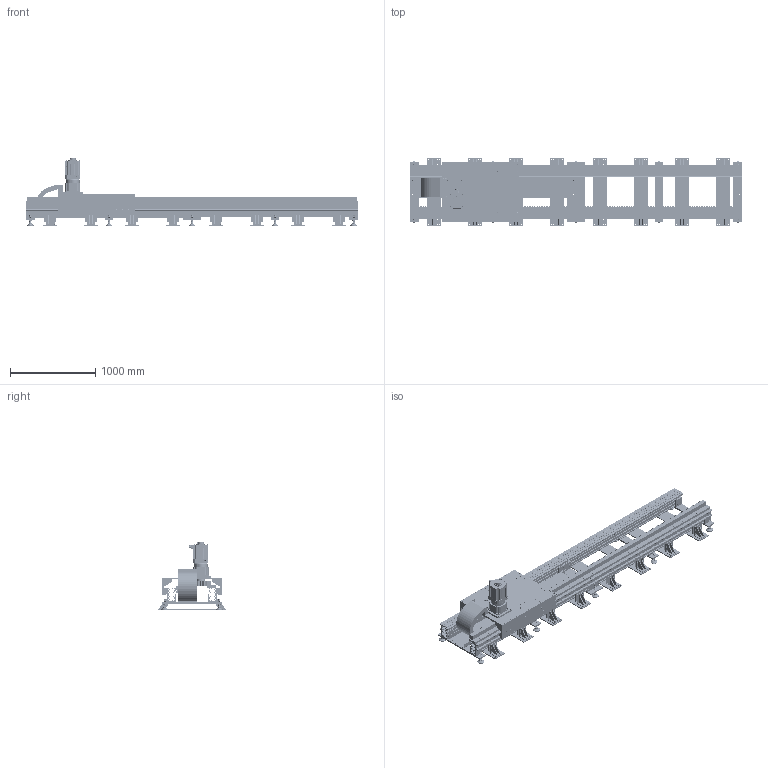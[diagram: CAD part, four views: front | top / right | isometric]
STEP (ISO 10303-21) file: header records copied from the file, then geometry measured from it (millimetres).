
FILE_DESCRIPTION (( 'STEP AP214' ), '1' );
FILE_NAME ('hst80.STEP', '2024-07-18T05:47:38', ( '' ), ( '' ), 'SwSTEP 2.0', 'SolidWorks 2019', '' );
FILE_SCHEMA (( 'AUTOMOTIVE_DESIGN' ));
Length unit declared in the file: millimetre
Products named in the file (4): Part1^hst80; Part2^hst80; Part3^hst80; hst80
Assembly tree (3 placements, depth 2):
  hst80
    Part1^hst80
    Part2^hst80
    Part3^hst80
Bounding box: 3900 x 800 x 799 mm (x, y, z)
Volume: 134111391.4 mm3; surface area: 29110239.1 mm2
Topology: 38 solids, 203 shells, 15181 faces, 39495 edges, 25480 vertices
Faces by surface type: cylinder 6372, plane 5827, cone 2674, torus 254, sphere 32, bspline 22
Entity records: 485270 total; most frequent: CARTESIAN_POINT 88386, DIRECTION 85177, ORIENTED_EDGE 78562, EDGE_CURVE 39281, AXIS2_PLACEMENT_3D 32023, VERTEX_POINT 25480, LINE 21131, VECTOR 21131
